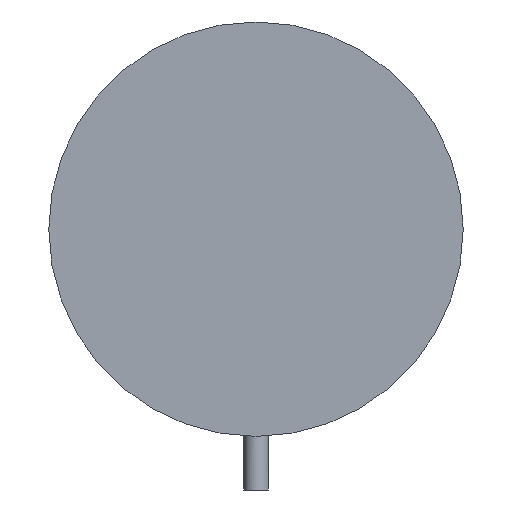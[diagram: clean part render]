
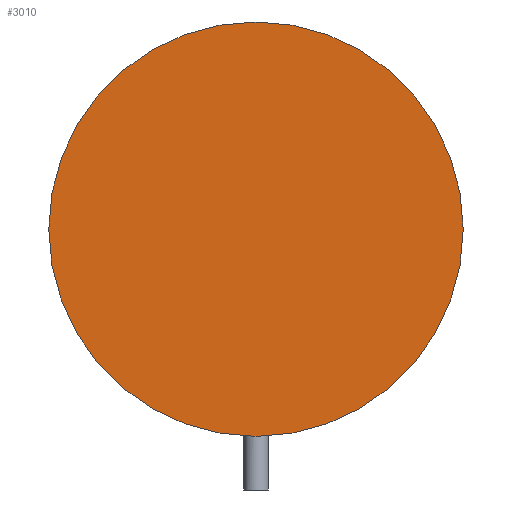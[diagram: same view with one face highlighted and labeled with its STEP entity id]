
A CAD part, front view. The second image highlights one B-rep face of the part: STEP entity #3010.
In plain terms, the highlighted planar face has unit normal (0, -1, 0).
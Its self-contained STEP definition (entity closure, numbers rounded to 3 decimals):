
#384 = CARTESIAN_POINT ( 'NONE',  ( 85., 38.812, 27.5 ) ) ;
#466 = EDGE_CURVE ( 'NONE', #4223, #1135, #4399, .T. ) ;
#756 = ORIENTED_EDGE ( 'NONE', *, *, #466, .F. ) ;
#795 = CIRCLE ( 'NONE', #3424, 85. ) ;
#810 = PLANE ( 'NONE',  #1120 ) ;
#894 = CARTESIAN_POINT ( 'NONE',  ( -85., 38.812, 27.5 ) ) ;
#1120 = AXIS2_PLACEMENT_3D ( 'NONE', #3232, #3686, #3255 ) ;
#1135 = VERTEX_POINT ( 'NONE', #384 ) ;
#1140 = DIRECTION ( 'NONE',  ( -1., 0., 0. ) ) ;
#1528 = AXIS2_PLACEMENT_3D ( 'NONE', #4294, #4393, #1140 ) ;
#1623 = CARTESIAN_POINT ( 'NONE',  ( 0., 38.812, 27.5 ) ) ;
#2328 = DIRECTION ( 'NONE',  ( -1., 0., 0. ) ) ;
#2606 = EDGE_CURVE ( 'NONE', #1135, #4223, #795, .T. ) ;
#2985 = EDGE_LOOP ( 'NONE', ( #756, #3679 ) ) ;
#3010 = ADVANCED_FACE ( 'NONE', ( #4064 ), #810, .F. ) ;
#3232 = CARTESIAN_POINT ( 'NONE',  ( 55., 38.812, -55. ) ) ;
#3255 = DIRECTION ( 'NONE',  ( -1., 0., 0. ) ) ;
#3424 = AXIS2_PLACEMENT_3D ( 'NONE', #1623, #4518, #2328 ) ;
#3679 = ORIENTED_EDGE ( 'NONE', *, *, #2606, .F. ) ;
#3686 = DIRECTION ( 'NONE',  ( 0., 1., 0. ) ) ;
#4064 = FACE_OUTER_BOUND ( 'NONE', #2985, .T. ) ;
#4223 = VERTEX_POINT ( 'NONE', #894 ) ;
#4294 = CARTESIAN_POINT ( 'NONE',  ( 0., 38.812, 27.5 ) ) ;
#4393 = DIRECTION ( 'NONE',  ( 0., 1., 0. ) ) ;
#4399 = CIRCLE ( 'NONE', #1528, 85. ) ;
#4518 = DIRECTION ( 'NONE',  ( 0., 1., 0. ) ) ;
